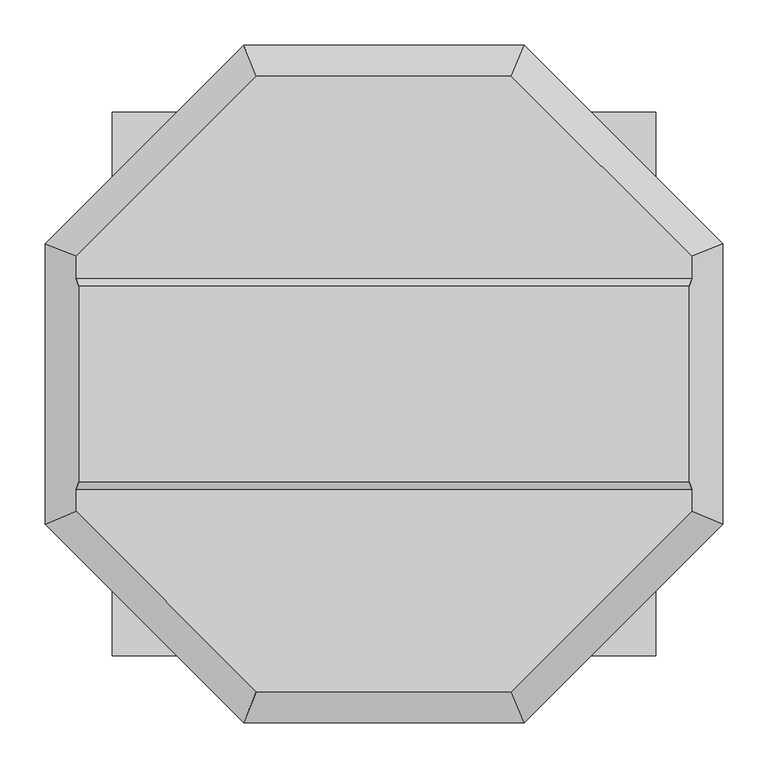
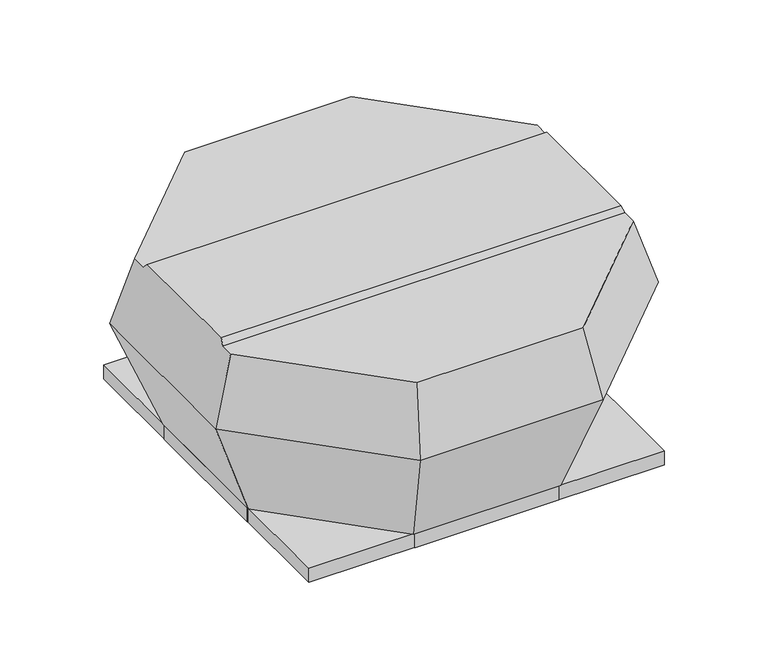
"""IFC4 building model written with IfcOpenShell, lengths in millimetres: unitary equipment geometry, VE-Wentylator-ParaForma-Harmann-VIVER_PT-Wywiewny : 4-400/4400PT."""

from ifc_helpers import new_model, si_unit, origin, place, context, project, spatial, faceted_brep, source, transform, mapped, element, save


def unitary_equipment_f9dc810f(model_context):
    return source(origin(), model_context, "Body", "Brep", [
        faceted_brep([(336.2765997, -107.5, 309.5), (336.2765997, 107.5, 309.5), (-336.2765997, 107.5, 309.5), (-336.2765997, -107.5, 309.5), (338.8348735, 116.0, 301.0), (-338.8348735, 116.0, 301.0), (338.8348735, -116.0, 301.0), (-338.8348735, -116.0, 301.0), (140.35, -338.8348735, 301.0), (338.8348735, -140.35, 301.0), (-338.8348735, -140.35, 301.0), (-140.35, -338.8348735, 301.0), (338.8348735, 140.35, 301.0), (140.35, 338.8348735, 301.0), (-140.35, 338.8348735, 301.0), (-338.8348735, 140.35, 301.0), (154.4, -372.754574, 188.3), (372.754574, -154.4, 188.3), (372.754574, 154.4, 188.3), (154.4, 372.754574, 188.3), (-154.4, 372.754574, 188.3), (-372.754574, 154.4, 188.3), (-372.754574, -154.4, 188.3), (-154.4, -372.754574, 188.3), (124.3, -300.0867458, 1.5), (-124.3, -300.0867458, 1.5), (-300.0867458, -124.3, 1.5), (-300.0867458, 124.3, 1.5), (-124.3, 300.0867458, 1.5), (124.3, 300.0867458, 1.5), (300.0867458, 124.3, 1.5), (300.0867458, -124.3, 1.5)], [[[0, 1, 2, 3]], [[1, 4, 5, 2]], [[6, 0, 3, 7]], [[8, 9, 6, 7, 10, 11]], [[12, 13, 14, 15, 5, 4]], [[9, 8, 16, 17]], [[9, 17, 18, 12, 4, 1, 0, 6]], [[13, 12, 18, 19]], [[14, 13, 19, 20]], [[15, 14, 20, 21]], [[15, 21, 22, 10, 7, 3, 2, 5]], [[11, 10, 22, 23]], [[8, 11, 23, 16]], [[24, 25, 26, 27, 28, 29, 30, 31]], [[24, 31, 17, 16]], [[31, 30, 18, 17]], [[30, 29, 19, 18]], [[29, 28, 20, 19]], [[28, 27, 21, 20]], [[27, 26, 22, 21]], [[26, 25, 23, 22]], [[25, 24, 16, 23]]]),
        faceted_brep([(297.5, 297.5, -23.5), (297.5, 297.5, 0.0), (-297.5, 297.5, 0.0), (-297.5, 297.5, -23.5), (299.0, 299.0, 1.5), (299.0, 299.0, -23.5), (-299.0, 299.0, -23.5), (-299.0, 299.0, 1.5), (-297.5, -297.5, 0.0), (-297.5, -297.5, -23.5), (-299.0, -299.0, -23.5), (-299.0, -299.0, 1.5), (297.5, -297.5, 0.0), (297.5, -297.5, -23.5), (299.0, -299.0, -23.5), (299.0, -299.0, 1.5)], [[[0, 1, 2, 3]], [[4, 5, 6, 7]], [[3, 2, 8, 9]], [[7, 6, 10, 11]], [[9, 8, 12, 13]], [[11, 10, 14, 15]], [[13, 12, 1, 0]], [[5, 14, 10, 6], [3, 9, 13, 0]], [[15, 14, 5, 4]], [[7, 11, 15, 4]], [[1, 12, 8, 2]]]),
        faceted_brep([(-299.0, -121.3, -23.5), (-300.0, -121.3, -23.5), (-300.0, 121.3, -23.5), (-299.0, 121.3, -23.5), (-299.0, -121.3, 1.5), (-299.0, 121.3, 1.5), (-300.0, 121.3, 1.5), (-300.0, -121.3, 1.5)], [[[0, 1, 2, 3]], [[4, 5, 6, 7]], [[1, 0, 4, 7]], [[2, 1, 7, 6]], [[3, 2, 6, 5]], [[0, 3, 5, 4]]]),
        faceted_brep([(300.0, -121.3, -23.5), (299.0, -121.3, -23.5), (299.0, 121.3, -23.5), (300.0, 121.3, -23.5), (300.0, 121.3, 1.5), (299.0, 121.3, 1.5), (299.0, 5.0, 1.5), (299.0, -5.0, 1.5), (299.0, -121.3, 1.5), (300.0, -121.3, 1.5), (300.0, -5.0, 1.5), (300.0, 5.0, 1.5)], [[[0, 1, 2, 3]], [[4, 5, 6, 7, 8, 9, 10, 11]], [[1, 0, 9, 8]], [[2, 1, 8, 7, 6, 5]], [[3, 2, 5, 4]], [[0, 3, 4, 11, 10, 9]]]),
        faceted_brep([(121.3, 299.0, -23.5), (-121.3, 299.0, -23.5), (-121.3, 300.0, -23.5), (121.3, 300.0, -23.5), (121.3, 299.0, 1.5), (121.3, 300.0, 1.5), (-121.3, 300.0, 1.5), (-121.3, 299.0, 1.5)], [[[0, 1, 2, 3]], [[4, 5, 6, 7]], [[1, 0, 4, 7]], [[2, 1, 7, 6]], [[3, 2, 6, 5]], [[0, 3, 5, 4]]]),
        faceted_brep([(121.3, -300.0, -23.5), (-121.3, -300.0, -23.5), (-121.3, -299.0, -23.5), (121.3, -299.0, -23.5), (121.3, -300.0, 1.5), (121.3, -299.0, 1.5), (-121.3, -299.0, 1.5), (-121.3, -300.0, 1.5)], [[[0, 1, 2, 3]], [[4, 5, 6, 7]], [[1, 0, 4, 7]], [[2, 1, 7, 6]], [[3, 2, 6, 5]], [[0, 3, 5, 4]]]),
    ])


if __name__ == "__main__":
    model = new_model("IFC4")
    model_context = context("Model", 3, world=origin())
    ifc_project = project(units=[si_unit("LENGTHUNIT", "METRE", prefix="MILLI")], contexts=[model_context])
    site = spatial("IfcSite", under=ifc_project)
    building = spatial("IfcBuilding", under=site)
    placement = place(None, origin())
    unitary_equipment_shape = unitary_equipment_f9dc810f(model_context)
    element("IfcUnitaryEquipment", 1, ObjectType="VE-Wentylator-ParaForma-Harmann-VIVER_PT-Wywiewny : 4-400/4400PT", at=placement, inside=building, context=model_context, shape_type="MappedRepresentation", body=[
        mapped(unitary_equipment_shape, transform((0.0, 0.0, 0.0), x_axis=(1.0, 0.0, 0.0), y_axis=(0.0, 1.0, 0.0), z_axis=(0.0, 0.0, 1.0))),
    ])
    save(model, "model.ifc")
